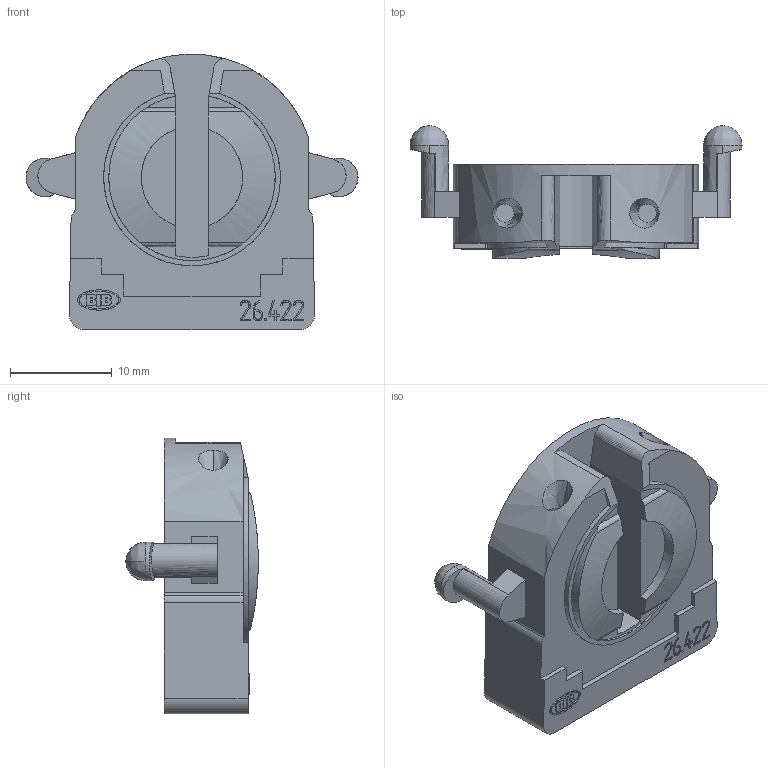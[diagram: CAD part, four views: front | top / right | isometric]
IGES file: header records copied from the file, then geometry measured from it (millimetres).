
Global section: file name: C:\CoreTechnologie\3D-in\00BY23HY04.igs; native system: CT CoreTechnologie 3D Evolution; preprocessor: 2006; author: assmuth; date: 1150909.120802; units: millimetre
Bounding box: 32.7 x 13.05 x 27.13 mm (x, y, z)
Surface area: 2802 mm2 (no closed solid volume)
Topology: 0 solids, 0 shells, 279 faces, 1508 edges, 1504 vertices
Faces by surface type: bspline 279
